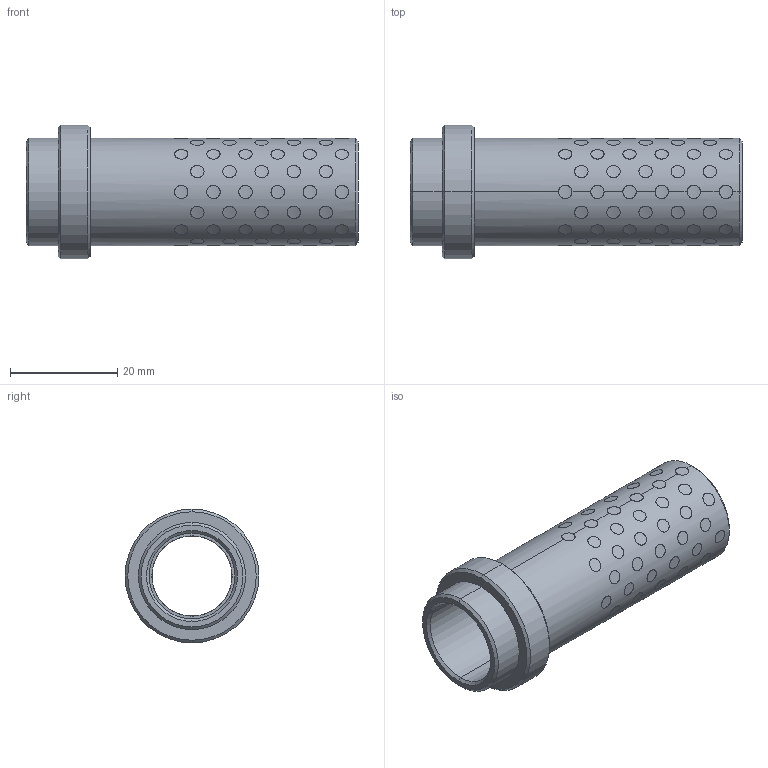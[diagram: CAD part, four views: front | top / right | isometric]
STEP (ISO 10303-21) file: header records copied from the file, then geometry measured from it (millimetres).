
FILE_DESCRIPTION((''),'2;1');
FILE_NAME('G31215056','2017-12-30T',('MANU'),(''),'PRO/ENGINEER BY PARAMETRIC TECHNOLOGY CORPORATION, 2012130','PRO/ENGINEER BY PARAMETRIC TECHNOLOGY CORPORATION, 2012130','');
FILE_SCHEMA(('CONFIG_CONTROL_DESIGN'));
Length unit declared in the file: millimetre
Products named in the file (1): G31215056
Bounding box: 62 x 25 x 25 mm (x, y, z)
Volume: 8888.6 mm3; surface area: 10962.6 mm2
Topology: 89 solids, 89 shells, 555 faces, 1182 edges, 784 vertices
Faces by surface type: cylinder 538, cone 12, plane 5
Entity records: 25084 total; most frequent: CARTESIAN_POINT 14259, ORIENTED_EDGE 2364, DIRECTION 1572, EDGE_CURVE 1182, VERTEX_POINT 784, B_SPLINE_CURVE_WITH_KNOTS 752, EDGE_LOOP 712, AXIS2_PLACEMENT_3D 587
